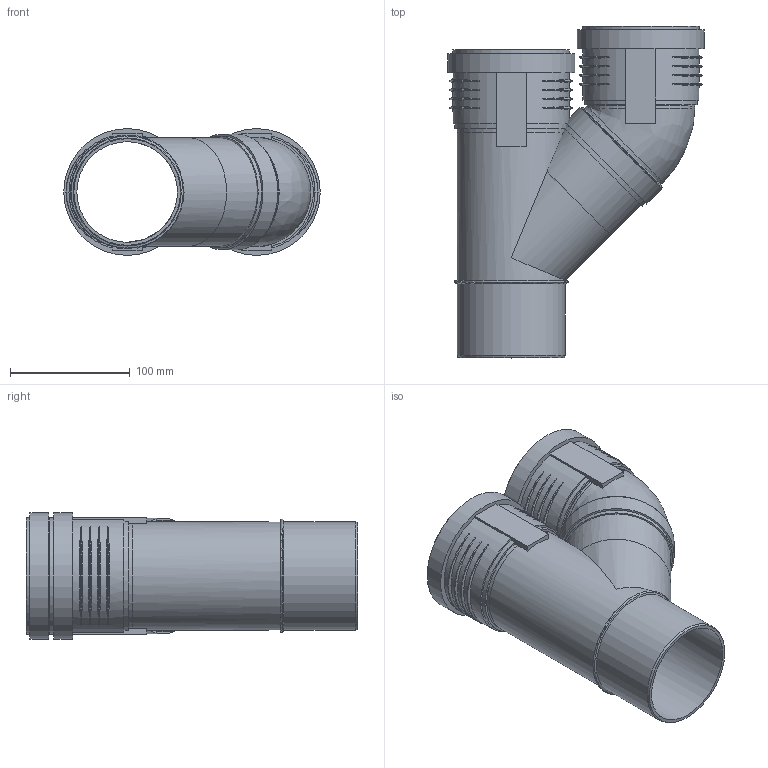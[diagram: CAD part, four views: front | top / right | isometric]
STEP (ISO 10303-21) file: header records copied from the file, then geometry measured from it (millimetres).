
FILE_DESCRIPTION(/* description */ (''),/* implementation_level */ '2;1');
FILE_NAME(/* name */ 'Z:\Geberit\Export\NewStep\390457.stp',/* time_stamp */ '2014-04-02T08:13:19+02:00',/* author */ ('ML'),/* organization */ (''),/* preprocessor_version */ 'ST-DEVELOPER v15.2',/* originating_system */ 'Autodesk Inventor 2014',/* authorisation */ '');
FILE_SCHEMA (('AUTOMOTIVE_DESIGN { 1 0 10303 214 3 1 1 }'));
Length unit declared in the file: millimetre
Products named in the file (6): 861344; 861516; 861403; 861313; 390422; 390457
Bounding box: 213.95 x 276.9 x 105.8 mm (x, y, z)
Volume: 454076.4 mm3; surface area: 302482.7 mm2
Topology: 5 solids, 5 shells, 146 faces, 353 edges, 240 vertices
Faces by surface type: torus 54, cylinder 42, plane 42, cone 7, bspline 1
Full cylindrical faces by diameter (mm): 84 x5, 84.2 x2, 89.1 x1, 90.2 x6, 91.2 x4, 93.28 x1, 96.48 x1, 97.2 x2, 99.8 x2, 105.8 x2
Entity records: 3435 total; most frequent: CARTESIAN_POINT 1295, DIRECTION 416, ORIENTED_EDGE 352, AXIS2_PLACEMENT_3D 190, EDGE_CURVE 176, EDGE_LOOP 144, VERTEX_POINT 136, STYLED_ITEM 94
